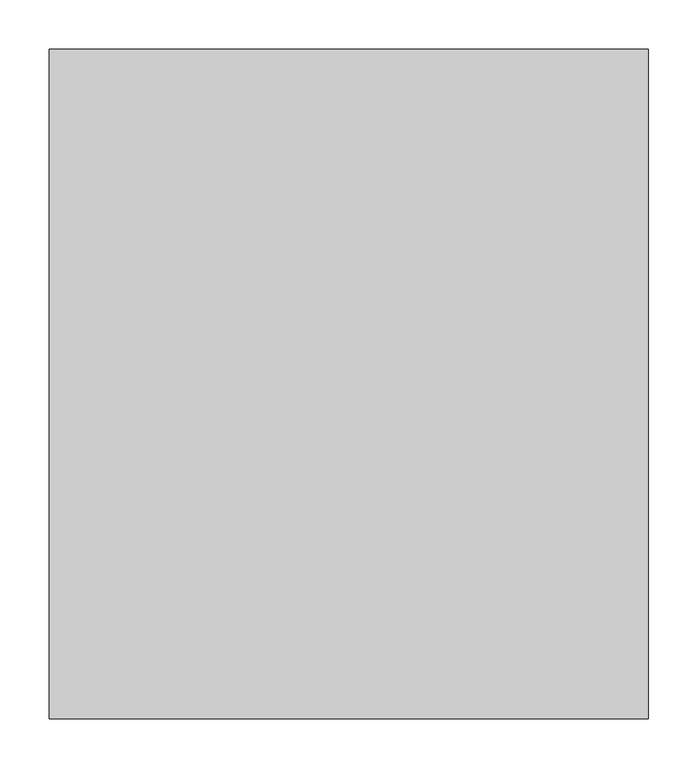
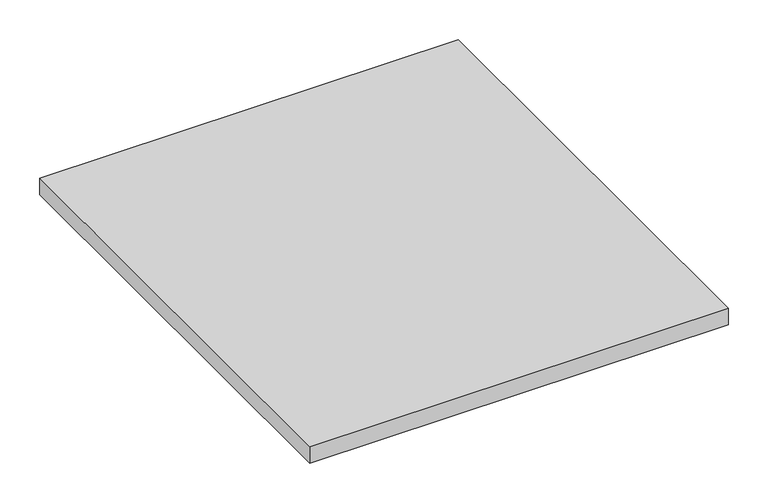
"""IFC4 building model written with IfcOpenShell, lengths in millimetres: proxy geometry, BASYS^CREDENZA 1_INTERNAL DETAILS-LT CTR DOOR."""

from ifc_helpers import new_model, si_unit, frame, origin, place, context, project, spatial, polyline, outline, extrude, source, transform, mapped, element, save


def generic_models_2f4708ec(model_context):
    return source(origin(), model_context, "Body", "SweptSolid", [
        extrude(outline(polyline([(1218.0204875, -687.55), (611.39705, -687.55), (611.39705, -9.525), (1218.0204875, -9.525), (1218.0204875, -687.55)])), frame((0.0, 0.0, -25.4), z_axis=(0.0, 0.0, 1.0), x_axis=(1.0, 0.0, 0.0)), (0.0, 0.0, 1.0), 25.4),
    ])


if __name__ == "__main__":
    model = new_model("IFC4")
    model_context = context("Model", 3, world=origin())
    ifc_project = project(units=[si_unit("LENGTHUNIT", "METRE", prefix="MILLI")], contexts=[model_context])
    site = spatial("IfcSite", under=ifc_project)
    building = spatial("IfcBuilding", under=site)
    placement = place(None, origin())
    generic_models_shape = generic_models_2f4708ec(model_context)
    element("IfcBuildingElementProxy", 1, Name="BASYS^CREDENZA 1_INTERNAL DETAILS-LT CTR DOOR", ObjectType="BASYS^CREDENZA 1_INTERNAL DETAILS-LT CTR DOOR", at=placement, inside=building, context=model_context, shape_type="MappedRepresentation", body=[
        mapped(generic_models_shape, transform((0.0, 0.0, 0.0), x_axis=(1.0, 0.0, 0.0), y_axis=(0.0, 1.0, 0.0), z_axis=(0.0, 0.0, 1.0))),
    ])
    save(model, "model.ifc")
